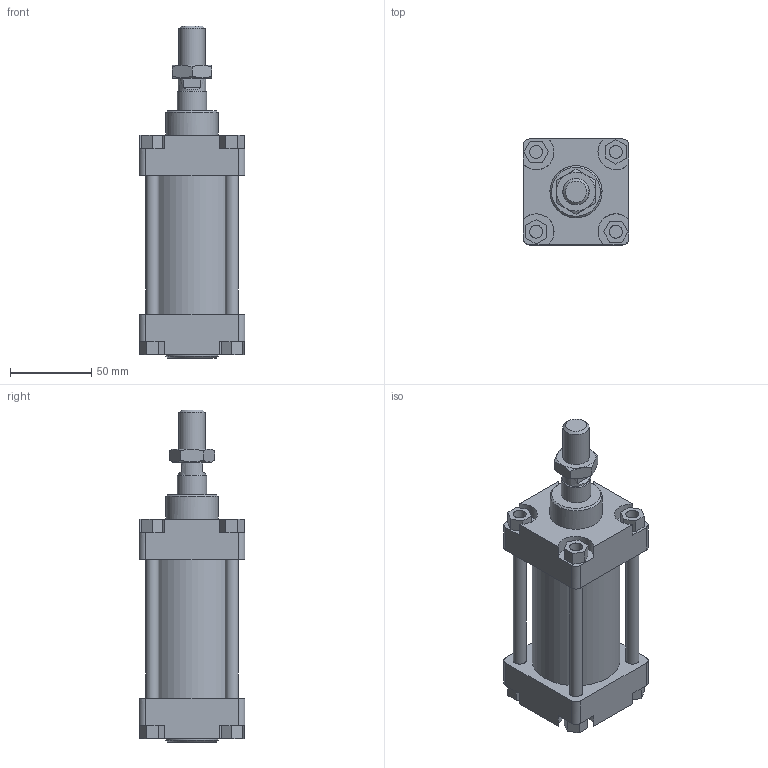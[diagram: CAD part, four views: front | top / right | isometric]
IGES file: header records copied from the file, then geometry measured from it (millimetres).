
Global section: file name: 130#_050_0025_01A; native system: Autodesk Inventor 2014; preprocessor: unknown; author: A. Manieri; date: 20161123.145351; units: millimetre
Bounding box: 65 x 65 x 204 mm (x, y, z)
Volume: 375937.8 mm3; surface area: 101606.8 mm2
Topology: 9 solids, 9 shells, 163 faces, 401 edges, 268 vertices
Faces by surface type: bspline 163
